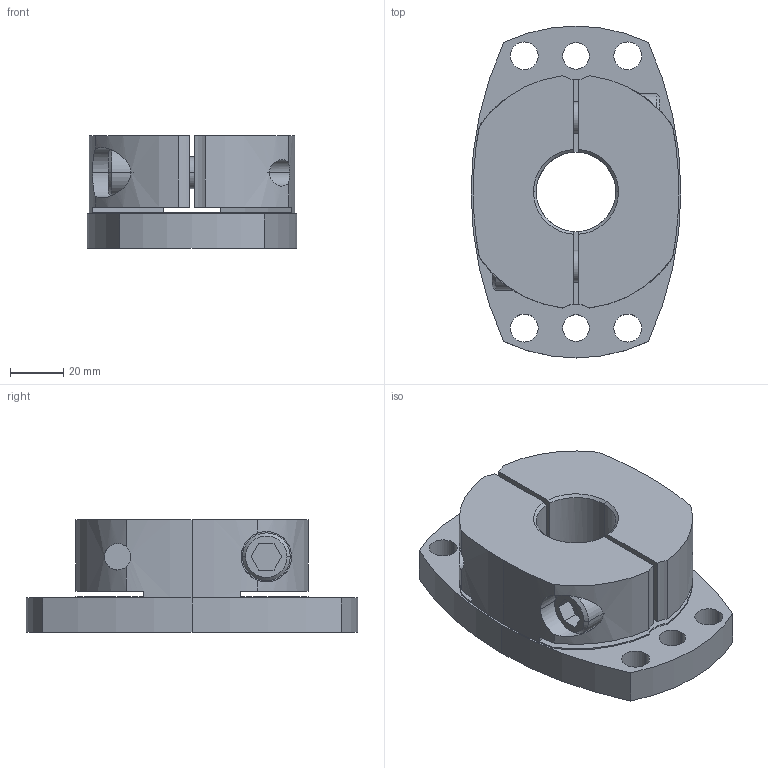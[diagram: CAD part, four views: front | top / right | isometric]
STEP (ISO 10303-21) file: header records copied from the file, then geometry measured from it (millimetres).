
FILE_DESCRIPTION((''),'2;1');
FILE_NAME('SHDB-125B-30.stp','2026-01-28T08:48:08',(''),(''),'AutoCAD STEP 2000i','AutoCAD 2000i',', , ');
FILE_SCHEMA(('CONFIG_CONTROL_DESIGN'));
Length unit declared in the file: millimetre
Products named in the file (2): SHDB-125B-25; 忣兜1
Assembly tree (1 placements, depth 2):
  SHDB-125B-25
    忣兜1
Bounding box: 79 x 125 x 42.5 mm (x, y, z)
Volume: 226643.1 mm3; surface area: 46916.7 mm2
Topology: 1 solids, 1 shells, 102 faces, 280 edges, 184 vertices
Faces by surface type: cylinder 58, plane 34, cone 10
Entity records: 3699 total; most frequent: CARTESIAN_POINT 872, DIRECTION 602, ORIENTED_EDGE 560, EDGE_CURVE 280, AXIS2_PLACEMENT_3D 238, VERTEX_POINT 184, CIRCLE 134, VECTOR 126
